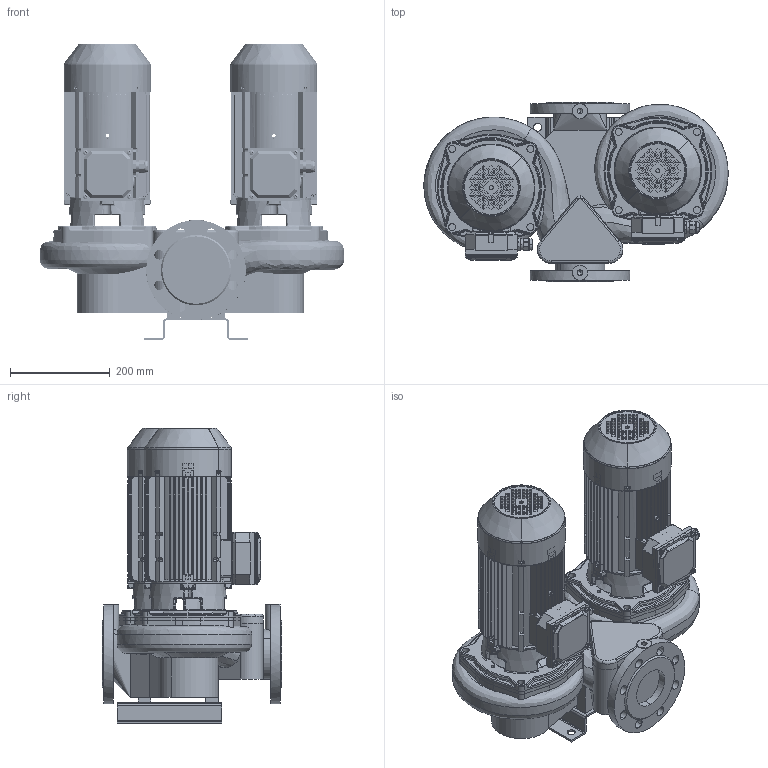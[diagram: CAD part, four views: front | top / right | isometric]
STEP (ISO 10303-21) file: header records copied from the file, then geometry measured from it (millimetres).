
FILE_DESCRIPTION(('STEP AP214'),'1');
FILE_NAME('export.stp','2018-05-30T07:52:16',(' '),(' '),'Spatial InterOp 3D',' ',' ');
FILE_SCHEMA(('AUTOMOTIVE_DESIGN { 1 0 10303 214 1 1 1 1 }'));
Length unit declared in the file: millimetre
Products named in the file (33): W_T80A2220_KP90; V_TLL65AB80A1102; V_PPT80A; V_JALKA35973; 160024; 160004_Valu; V_MKP90_1_F19; M5x8_DIN; DIN_7985-M5X8; 160141; M5x12_DIN; DIN_7985-M5X12; 160137; 160138; 160139; 160140; Koura_Ale_M5; Plug_Blind_M20; Sealing_Plug_M20; 160048___; 160068___; 160135
Assembly tree (52 placements, depth 5):
  W_T80A2220_KP90
    V_TLL65AB80A1102  x2
    V_PPT80A
    V_JALKA35973
    V_MKP90_1_F19
      160024
        160004_Valu
      160141
        M5x8_DIN
          DIN_7985-M5X8
        M5x12_DIN
          DIN_7985-M5X12
        M5x12_DIN
          DIN_7985-M5X12
        M5x12_DIN
          DIN_7985-M5X12
        M5x12_DIN
          DIN_7985-M5X12
        160137
        160138
        160139
        160140
        Koura_Ale_M5
        Plug_Blind_M20
        Sealing_Plug_M20
      160048___
      160068___
      160135
    V_MKP90_1_F19
      160024
        160004_Valu
      160141
        M5x8_DIN
          DIN_7985-M5X8
        M5x12_DIN
          DIN_7985-M5X12
        M5x12_DIN
          DIN_7985-M5X12
        M5x12_DIN
          DIN_7985-M5X12
        M5x12_DIN
          DIN_7985-M5X12
        160137
        160138
        160139
        160140
        Koura_Ale_M5
        Plug_Blind_M20
        Sealing_Plug_M20
      160048___
      160068___
      160135
Bounding box: 609.79 x 360 x 593 mm (x, y, z)
Volume: 21587193.2 mm3; surface area: 4690480.5 mm2
Topology: 38 solids, 39 shells, 5025 faces, 13347 edges, 8374 vertices
Faces by surface type: plane 2069, cylinder 1535, torus 554, bspline 503, cone 290, sphere 74
Entity records: 104765 total; most frequent: CARTESIAN_POINT 36274, ORIENTED_EDGE 13728, DIRECTION 12778, EDGE_CURVE 6864, AXIS2_PLACEMENT_3D 4832, VERTEX_POINT 4357, LINE 3114, VECTOR 3114
